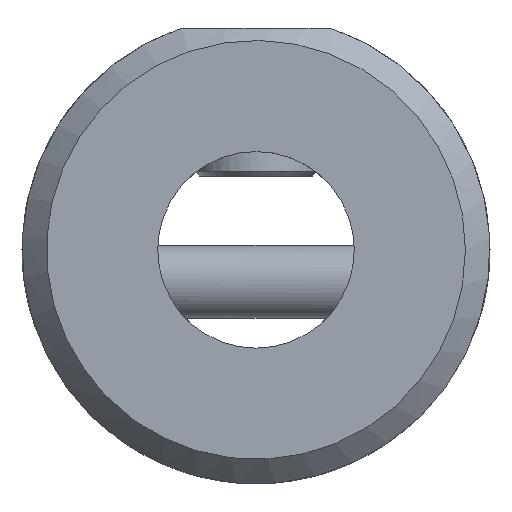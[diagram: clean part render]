
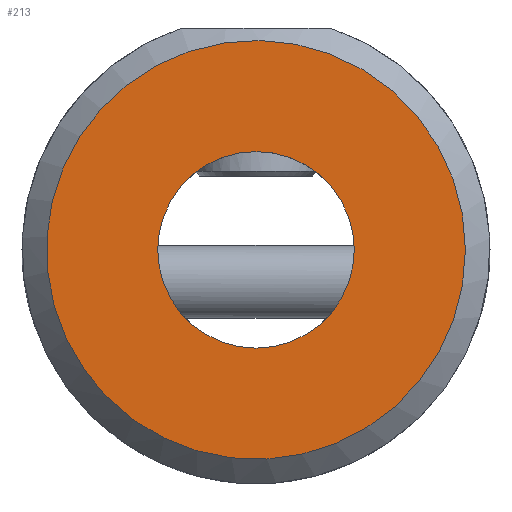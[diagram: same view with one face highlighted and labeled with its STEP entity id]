
A CAD part, left-side view. The second image highlights one B-rep face of the part: STEP entity #213.
In plain terms, the highlighted planar face has unit normal (-1, 0, 0).
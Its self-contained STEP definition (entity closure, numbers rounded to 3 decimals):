
#69=PLANE('',#942);
#213=ADVANCED_FACE('',(#318,#319),#69,.T.);
#318=FACE_BOUND('',#390,.T.);
#319=FACE_BOUND('',#391,.T.);
#390=EDGE_LOOP('',(#512));
#391=EDGE_LOOP('',(#513));
#512=ORIENTED_EDGE('',*,*,#796,.F.);
#513=ORIENTED_EDGE('',*,*,#797,.T.);
#711=VERTEX_POINT('',#1476);
#712=VERTEX_POINT('',#1478);
#796=EDGE_CURVE('',#711,#711,#886,.T.);
#797=EDGE_CURVE('',#712,#712,#887,.T.);
#886=CIRCLE('',#940,4.);
#887=CIRCLE('',#941,8.525);
#940=AXIS2_PLACEMENT_3D('',#1475,#1069,#1070);
#941=AXIS2_PLACEMENT_3D('',#1477,#1071,#1072);
#942=AXIS2_PLACEMENT_3D('',#1479,#1073,#1074);
#1069=DIRECTION('',(-1.,0.,0.));
#1070=DIRECTION('',(0.,0.,1.));
#1071=DIRECTION('',(-1.,0.,0.));
#1072=DIRECTION('',(0.,-1.,0.));
#1073=DIRECTION('',(-1.,0.,0.));
#1074=DIRECTION('',(0.,1.,0.));
#1475=CARTESIAN_POINT('',(-100.,0.,0.));
#1476=CARTESIAN_POINT('',(-100.,0.,4.));
#1477=CARTESIAN_POINT('',(-100.,0.,0.));
#1478=CARTESIAN_POINT('',(-100.,-8.525,0.));
#1479=CARTESIAN_POINT('',(-100.,0.,0.));
